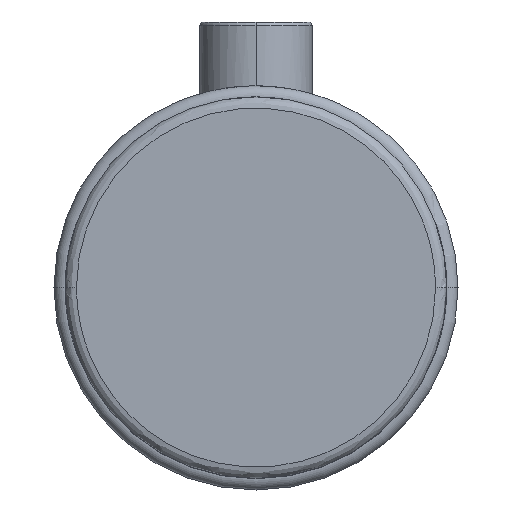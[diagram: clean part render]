
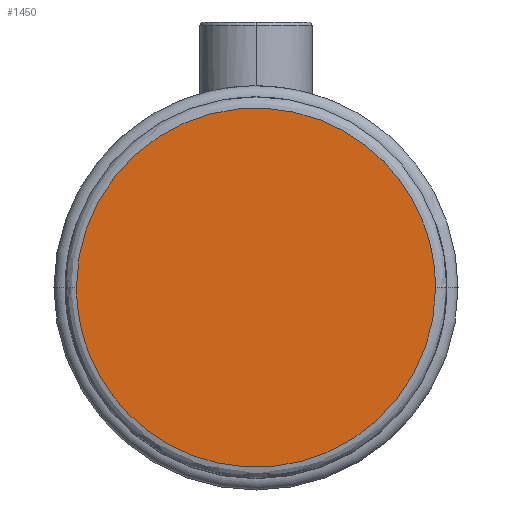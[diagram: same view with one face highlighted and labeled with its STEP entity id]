
A CAD part, top view. The second image highlights one B-rep face of the part: STEP entity #1450.
In plain terms, the highlighted planar face has unit normal (0, 0, 1).
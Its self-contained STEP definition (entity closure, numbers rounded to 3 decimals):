
#971 = CARTESIAN_POINT ( 'NONE',  ( 47.8, 0., 50. ) ) ;
#1211 = PLANE ( 'NONE',  #1566 ) ;
#1255 = ORIENTED_EDGE ( 'NONE', *, *, #9259, .F. ) ;
#1450 = ADVANCED_FACE ( 'NONE', ( #11010 ), #1211, .T. ) ;
#1566 = AXIS2_PLACEMENT_3D ( 'NONE', #4913, #11867, #7897 ) ;
#1808 = CARTESIAN_POINT ( 'NONE',  ( -47.8, 95.6, 50. ) ) ;
#1906 = CARTESIAN_POINT ( 'NONE',  ( 47.8, 0., 50. ) ) ;
#2568 = ORIENTED_EDGE ( 'NONE', *, *, #5378, .F. ) ;
#3969 =( BOUNDED_CURVE ( )  B_SPLINE_CURVE ( 3, ( #8855, #1808, #7917, #1906 ),
 .UNSPECIFIED., .F., .T. ) 
 B_SPLINE_CURVE_WITH_KNOTS ( ( 4, 4 ),
 ( 0.75, 1.25 ),
 .UNSPECIFIED. ) 
 CURVE ( )  GEOMETRIC_REPRESENTATION_ITEM ( )  RATIONAL_B_SPLINE_CURVE ( ( 1., 0.333, 0.333, 1. ) ) 
 REPRESENTATION_ITEM ( '' )  );
#4671 = CARTESIAN_POINT ( 'NONE',  ( 47.8, 0., 50. ) ) ;
#4913 = CARTESIAN_POINT ( 'NONE',  ( 0., 25.4, 50. ) ) ;
#5378 = EDGE_CURVE ( 'NONE', #7648, #5601, #7291, .T. ) ;
#5601 = VERTEX_POINT ( 'NONE', #8841 ) ;
#5710 = EDGE_LOOP ( 'NONE', ( #2568, #1255 ) ) ;
#7291 =( BOUNDED_CURVE ( )  B_SPLINE_CURVE ( 3, ( #971, #7794, #11893, #10058 ),
 .UNSPECIFIED., .F., .F. ) 
 B_SPLINE_CURVE_WITH_KNOTS ( ( 4, 4 ),
 ( 0.25, 0.75 ),
 .UNSPECIFIED. ) 
 CURVE ( )  GEOMETRIC_REPRESENTATION_ITEM ( )  RATIONAL_B_SPLINE_CURVE ( ( 1., 0.333, 0.333, 1. ) ) 
 REPRESENTATION_ITEM ( '' )  );
#7648 = VERTEX_POINT ( 'NONE', #4671 ) ;
#7794 = CARTESIAN_POINT ( 'NONE',  ( 47.8, -95.6, 50. ) ) ;
#7897 = DIRECTION ( 'NONE',  ( 0., -1., 0. ) ) ;
#7917 = CARTESIAN_POINT ( 'NONE',  ( 47.8, 95.6, 50. ) ) ;
#8841 = CARTESIAN_POINT ( 'NONE',  ( -47.8, 0., 50. ) ) ;
#8855 = CARTESIAN_POINT ( 'NONE',  ( -47.8, 0., 50. ) ) ;
#9259 = EDGE_CURVE ( 'NONE', #5601, #7648, #3969, .T. ) ;
#10058 = CARTESIAN_POINT ( 'NONE',  ( -47.8, 0., 50. ) ) ;
#11010 = FACE_OUTER_BOUND ( 'NONE', #5710, .T. ) ;
#11867 = DIRECTION ( 'NONE',  ( 0., 0., 1. ) ) ;
#11893 = CARTESIAN_POINT ( 'NONE',  ( -47.8, -95.6, 50. ) ) ;
